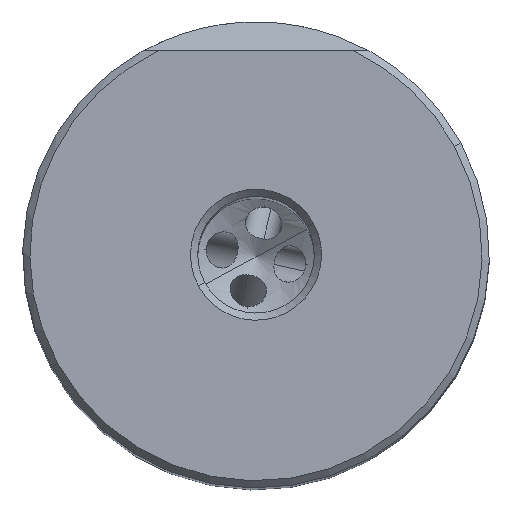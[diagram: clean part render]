
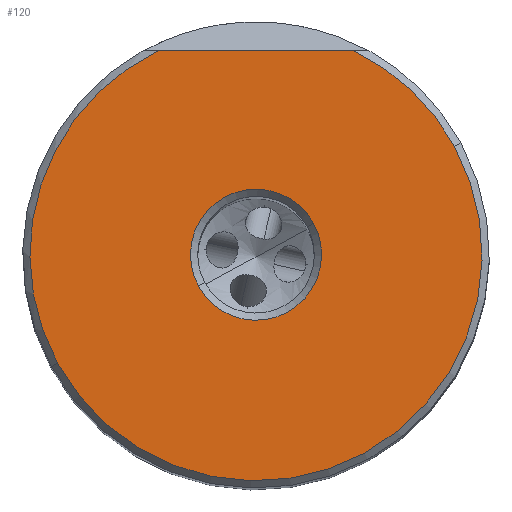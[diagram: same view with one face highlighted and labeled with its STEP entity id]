
A CAD part, top view. The second image highlights one B-rep face of the part: STEP entity #120.
In plain terms, the highlighted planar face has unit normal (0, 0, 1).
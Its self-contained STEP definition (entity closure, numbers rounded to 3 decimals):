
#62=AXIS2_PLACEMENT_3D('Circle Axis2P3D',#60,#61,$) ;
#75=AXIS2_PLACEMENT_3D('Plane Axis2P3D',#72,#73,#74) ;
#79=AXIS2_PLACEMENT_3D('Circle Axis2P3D',#77,#78,$) ;
#88=AXIS2_PLACEMENT_3D('Circle Axis2P3D',#86,#87,$) ;
#95=AXIS2_PLACEMENT_3D('Circle Axis2P3D',#93,#94,$) ;
#113=AXIS2_PLACEMENT_3D('Circle Axis2P3D',#111,#112,$) ;
#41=CARTESIAN_POINT('Vertex',(3.945,2.155,0.)) ;
#57=CARTESIAN_POINT('Vertex',(-3.945,-2.155,0.)) ;
#60=CARTESIAN_POINT('Axis2P3D Location',(0.,0.,0.)) ;
#72=CARTESIAN_POINT('Axis2P3D Location',(-15.505,0.,0.)) ;
#77=CARTESIAN_POINT('Axis2P3D Location',(0.,0.,0.)) ;
#81=CARTESIAN_POINT('Vertex',(-6.664,14.,0.)) ;
#83=CARTESIAN_POINT('Vertex',(-13.607,-7.434,0.)) ;
#86=CARTESIAN_POINT('Axis2P3D Location',(0.,0.,0.)) ;
#90=CARTESIAN_POINT('Vertex',(13.607,7.434,0.)) ;
#93=CARTESIAN_POINT('Axis2P3D Location',(0.,0.,0.)) ;
#97=CARTESIAN_POINT('Vertex',(6.664,14.,0.)) ;
#100=CARTESIAN_POINT('Line Origine',(0.,14.,0.)) ;
#111=CARTESIAN_POINT('Axis2P3D Location',(0.,0.,0.)) ;
#61=DIRECTION('Axis2P3D Direction',(0.,0.,1.)) ;
#73=DIRECTION('Axis2P3D Direction',(0.,0.,1.)) ;
#74=DIRECTION('Axis2P3D XDirection',(1.,0.,0.)) ;
#78=DIRECTION('Axis2P3D Direction',(0.,0.,1.)) ;
#87=DIRECTION('Axis2P3D Direction',(0.,0.,1.)) ;
#94=DIRECTION('Axis2P3D Direction',(0.,0.,1.)) ;
#101=DIRECTION('Vector Direction',(1.,0.,0.)) ;
#112=DIRECTION('Axis2P3D Direction',(0.,0.,1.)) ;
#102=VECTOR('Line Direction',#101,1.) ;
#106=ORIENTED_EDGE('',*,*,#85,.T.) ;
#107=ORIENTED_EDGE('',*,*,#92,.T.) ;
#108=ORIENTED_EDGE('',*,*,#99,.T.) ;
#109=ORIENTED_EDGE('',*,*,#104,.F.) ;
#117=ORIENTED_EDGE('',*,*,#64,.F.) ;
#118=ORIENTED_EDGE('',*,*,#115,.F.) ;
#119=FACE_BOUND('',#116,.T.) ;
#120=ADVANCED_FACE('NO_CUT',(#110,#119),#76,.T.) ;
#63=CIRCLE('generated circle',#62,4.495) ;
#80=CIRCLE('generated circle',#79,15.505) ;
#89=CIRCLE('generated circle',#88,15.505) ;
#96=CIRCLE('generated circle',#95,15.505) ;
#114=CIRCLE('generated circle',#113,4.495) ;
#64=EDGE_CURVE('',#58,#42,#63,.T.) ;
#85=EDGE_CURVE('',#82,#84,#80,.T.) ;
#92=EDGE_CURVE('',#84,#91,#89,.T.) ;
#99=EDGE_CURVE('',#91,#98,#96,.T.) ;
#104=EDGE_CURVE('',#82,#98,#103,.T.) ;
#115=EDGE_CURVE('',#42,#58,#114,.T.) ;
#105=EDGE_LOOP('',(#106,#107,#108,#109)) ;
#116=EDGE_LOOP('',(#117,#118)) ;
#110=FACE_OUTER_BOUND('',#105,.T.) ;
#103=LINE('Line',#100,#102) ;
#76=PLANE('',#75) ;
#42=VERTEX_POINT('',#41) ;
#58=VERTEX_POINT('',#57) ;
#82=VERTEX_POINT('',#81) ;
#84=VERTEX_POINT('',#83) ;
#91=VERTEX_POINT('',#90) ;
#98=VERTEX_POINT('',#97) ;
